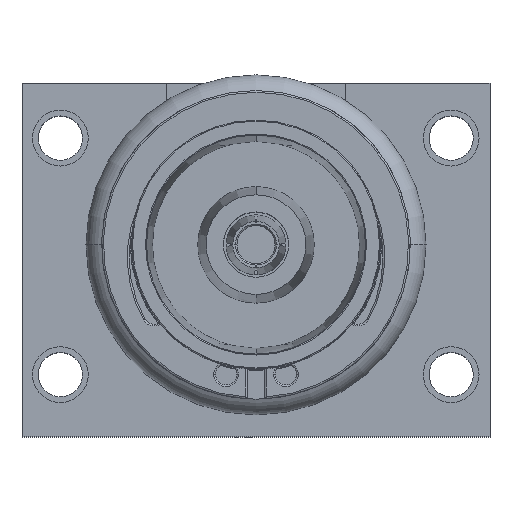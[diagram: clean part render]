
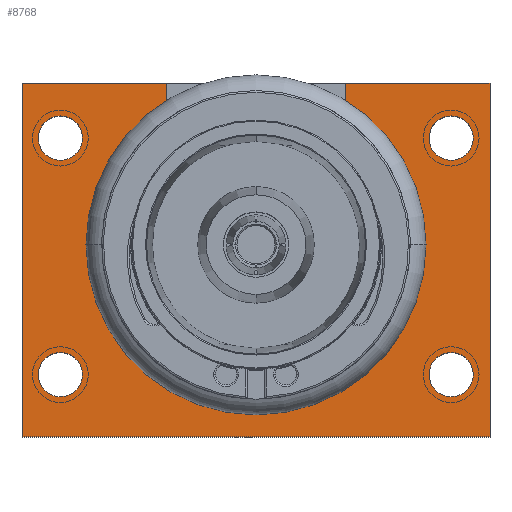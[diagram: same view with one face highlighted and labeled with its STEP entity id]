
A CAD part, top view. The second image highlights one B-rep face of the part: STEP entity #8768.
In plain terms, the highlighted planar face has unit normal (0, 0, 1).
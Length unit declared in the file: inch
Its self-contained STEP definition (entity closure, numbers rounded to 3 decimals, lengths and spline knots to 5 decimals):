
#1385=DIRECTION('',(0.,1.,0.));
#1386=VECTOR('',#1385,0.0544);
#1387=CARTESIAN_POINT('',(0.18,0.2706,0.182));
#1388=LINE('',#1387,#1386);
#1389=DIRECTION('',(1.,0.,0.));
#1390=VECTOR('',#1389,0.29);
#1391=CARTESIAN_POINT('',(0.18,0.325,0.182));
#1392=LINE('',#1391,#1390);
#1393=DIRECTION('',(1.,0.,0.));
#1394=VECTOR('',#1393,0.29);
#1395=CARTESIAN_POINT('',(-0.47,0.325,0.182));
#1396=LINE('',#1395,#1394);
#1397=CARTESIAN_POINT('',(0.,0.,0.182));
#1398=DIRECTION('',(0.,0.,-1.));
#1399=DIRECTION('',(0.554,0.833,0.));
#1400=AXIS2_PLACEMENT_3D('',#1397,#1398,#1399);
#1402=CARTESIAN_POINT('',(-0.393,0.215,0.182));
#1403=DIRECTION('',(0.,0.,-1.));
#1404=DIRECTION('',(1.,0.,0.));
#1405=AXIS2_PLACEMENT_3D('',#1402,#1403,#1404);
#1407=CARTESIAN_POINT('',(-0.393,0.215,0.182));
#1408=DIRECTION('',(0.,0.,-1.));
#1409=DIRECTION('',(-1.,0.,0.));
#1410=AXIS2_PLACEMENT_3D('',#1407,#1408,#1409);
#1412=CARTESIAN_POINT('',(-0.393,-0.26,0.182));
#1413=DIRECTION('',(0.,0.,-1.));
#1414=DIRECTION('',(1.,0.,0.));
#1415=AXIS2_PLACEMENT_3D('',#1412,#1413,#1414);
#1417=CARTESIAN_POINT('',(-0.393,-0.26,0.182));
#1418=DIRECTION('',(0.,0.,-1.));
#1419=DIRECTION('',(-1.,0.,0.));
#1420=AXIS2_PLACEMENT_3D('',#1417,#1418,#1419);
#1422=CARTESIAN_POINT('',(0.392,0.215,0.182));
#1423=DIRECTION('',(0.,0.,-1.));
#1424=DIRECTION('',(1.,0.,0.));
#1425=AXIS2_PLACEMENT_3D('',#1422,#1423,#1424);
#1427=CARTESIAN_POINT('',(0.392,0.215,0.182));
#1428=DIRECTION('',(0.,0.,-1.));
#1429=DIRECTION('',(-1.,0.,0.));
#1430=AXIS2_PLACEMENT_3D('',#1427,#1428,#1429);
#1432=CARTESIAN_POINT('',(0.392,-0.26,0.182));
#1433=DIRECTION('',(0.,0.,-1.));
#1434=DIRECTION('',(1.,0.,0.));
#1435=AXIS2_PLACEMENT_3D('',#1432,#1433,#1434);
#1437=CARTESIAN_POINT('',(0.392,-0.26,0.182));
#1438=DIRECTION('',(0.,0.,-1.));
#1439=DIRECTION('',(-1.,0.,0.));
#1440=AXIS2_PLACEMENT_3D('',#1437,#1438,#1439);
#1446=DIRECTION('',(0.,1.,0.));
#1447=VECTOR('',#1446,0.71);
#1448=CARTESIAN_POINT('',(0.47,-0.385,0.182));
#1449=LINE('',#1448,#1447);
#1458=DIRECTION('',(1.,0.,0.));
#1459=VECTOR('',#1458,0.94);
#1460=CARTESIAN_POINT('',(-0.47,-0.385,0.182));
#1461=LINE('',#1460,#1459);
#1474=DIRECTION('',(0.,-1.,0.));
#1475=VECTOR('',#1474,0.71);
#1476=CARTESIAN_POINT('',(-0.47,0.325,0.182));
#1477=LINE('',#1476,#1475);
#1482=DIRECTION('',(0.,1.,0.));
#1483=VECTOR('',#1482,0.0544);
#1484=CARTESIAN_POINT('',(-0.18,0.2706,0.182));
#1485=LINE('',#1484,#1483);
#6461=CARTESIAN_POINT('',(0.18,0.325,0.182));
#6463=VERTEX_POINT('',#6461);
#6466=CARTESIAN_POINT('',(-0.18,0.325,0.182));
#6467=VERTEX_POINT('',#6466);
#6468=CARTESIAN_POINT('',(-0.47,0.325,0.182));
#6469=VERTEX_POINT('',#6468);
#6470=CARTESIAN_POINT('',(0.47,0.325,0.182));
#6471=VERTEX_POINT('',#6470);
#6472=CARTESIAN_POINT('',(0.18,0.2706,0.182));
#6473=VERTEX_POINT('',#6472);
#6476=CARTESIAN_POINT('',(0.47,-0.385,0.182));
#6477=VERTEX_POINT('',#6476);
#6478=CARTESIAN_POINT('',(-0.47,-0.385,0.182));
#6479=VERTEX_POINT('',#6478);
#6480=CARTESIAN_POINT('',(-0.18,0.2706,0.182));
#6481=VERTEX_POINT('',#6480);
#6482=CARTESIAN_POINT('',(-0.3485,0.215,0.182));
#6483=CARTESIAN_POINT('',(-0.4375,0.215,0.182));
#6484=VERTEX_POINT('',#6482);
#6485=VERTEX_POINT('',#6483);
#6486=CARTESIAN_POINT('',(-0.3485,-0.26,0.182));
#6487=CARTESIAN_POINT('',(-0.4375,-0.26,0.182));
#6488=VERTEX_POINT('',#6486);
#6489=VERTEX_POINT('',#6487);
#6490=CARTESIAN_POINT('',(0.4365,0.215,0.182));
#6491=CARTESIAN_POINT('',(0.3475,0.215,0.182));
#6492=VERTEX_POINT('',#6490);
#6493=VERTEX_POINT('',#6491);
#6494=CARTESIAN_POINT('',(0.4365,-0.26,0.182));
#6495=CARTESIAN_POINT('',(0.3475,-0.26,0.182));
#6496=VERTEX_POINT('',#6494);
#6497=VERTEX_POINT('',#6495);
#8724=CARTESIAN_POINT('',(0.,-0.03,0.182));
#8725=DIRECTION('',(0.,0.,1.));
#8726=DIRECTION('',(-1.,0.,0.));
#8727=AXIS2_PLACEMENT_3D('',#8724,#8725,#8726);
#8728=PLANE('',#8727);
#8729=ORIENTED_EDGE('',*,*,#8714,.T.);
#8730=ORIENTED_EDGE('',*,*,#8704,.T.);
#8732=ORIENTED_EDGE('',*,*,#8731,.F.);
#8734=ORIENTED_EDGE('',*,*,#8733,.F.);
#8736=ORIENTED_EDGE('',*,*,#8735,.F.);
#8737=ORIENTED_EDGE('',*,*,#8692,.T.);
#8739=ORIENTED_EDGE('',*,*,#8738,.F.);
#8741=ORIENTED_EDGE('',*,*,#8740,.F.);
#8742=EDGE_LOOP('',(#8729,#8730,#8732,#8734,#8736,#8737,#8739,#8741));
#8743=FACE_OUTER_BOUND('',#8742,.F.);
#8745=ORIENTED_EDGE('',*,*,#8744,.F.);
#8747=ORIENTED_EDGE('',*,*,#8746,.F.);
#8748=EDGE_LOOP('',(#8745,#8747));
#8749=FACE_BOUND('',#8748,.F.);
#8751=ORIENTED_EDGE('',*,*,#8750,.F.);
#8753=ORIENTED_EDGE('',*,*,#8752,.F.);
#8754=EDGE_LOOP('',(#8751,#8753));
#8755=FACE_BOUND('',#8754,.F.);
#8757=ORIENTED_EDGE('',*,*,#8756,.F.);
#8759=ORIENTED_EDGE('',*,*,#8758,.F.);
#8760=EDGE_LOOP('',(#8757,#8759));
#8761=FACE_BOUND('',#8760,.F.);
#8763=ORIENTED_EDGE('',*,*,#8762,.F.);
#8765=ORIENTED_EDGE('',*,*,#8764,.F.);
#8766=EDGE_LOOP('',(#8763,#8765));
#8767=FACE_BOUND('',#8766,.F.);
#1401=CIRCLE('',#1400,0.325);
#1406=CIRCLE('',#1405,0.0445);
#1411=CIRCLE('',#1410,0.0445);
#1416=CIRCLE('',#1415,0.0445);
#1421=CIRCLE('',#1420,0.0445);
#1426=CIRCLE('',#1425,0.0445);
#1431=CIRCLE('',#1430,0.0445);
#1436=CIRCLE('',#1435,0.0445);
#1441=CIRCLE('',#1440,0.0445);
#8692=EDGE_CURVE('',#6469,#6467,#1396,.T.);
#8704=EDGE_CURVE('',#6463,#6471,#1392,.T.);
#8714=EDGE_CURVE('',#6473,#6463,#1388,.T.);
#8731=EDGE_CURVE('',#6477,#6471,#1449,.T.);
#8733=EDGE_CURVE('',#6479,#6477,#1461,.T.);
#8735=EDGE_CURVE('',#6469,#6479,#1477,.T.);
#8738=EDGE_CURVE('',#6481,#6467,#1485,.T.);
#8740=EDGE_CURVE('',#6473,#6481,#1401,.T.);
#8744=EDGE_CURVE('',#6484,#6485,#1406,.T.);
#8746=EDGE_CURVE('',#6485,#6484,#1411,.T.);
#8750=EDGE_CURVE('',#6488,#6489,#1416,.T.);
#8752=EDGE_CURVE('',#6489,#6488,#1421,.T.);
#8756=EDGE_CURVE('',#6492,#6493,#1426,.T.);
#8758=EDGE_CURVE('',#6493,#6492,#1431,.T.);
#8762=EDGE_CURVE('',#6496,#6497,#1436,.T.);
#8764=EDGE_CURVE('',#6497,#6496,#1441,.T.);
#8768=ADVANCED_FACE('',(#8743,#8749,#8755,#8761,#8767),#8728,.T.);
